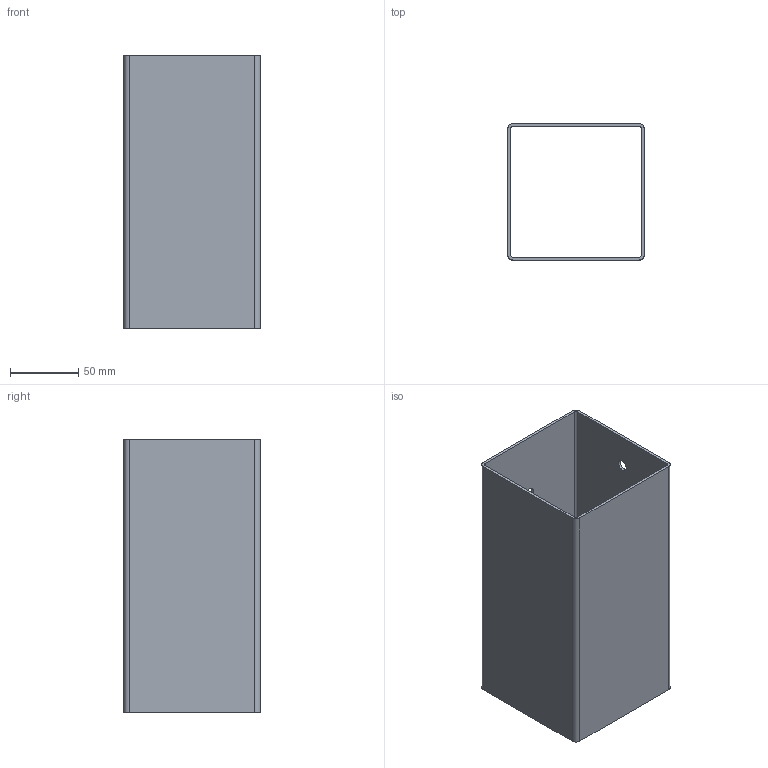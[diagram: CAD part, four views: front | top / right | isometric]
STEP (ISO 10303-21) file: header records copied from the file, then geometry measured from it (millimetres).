
FILE_DESCRIPTION(('STEP AP214'), '1');
FILE_NAME('Ïðîôèëü L = 200 ìì', '', ('UNSPECIFIED'), ('UNSPECIFIED'), 'C3D Converter', 'C3D Toolkit', '');
FILE_SCHEMA(('AUTOMOTIVE_DESIGN { 1 0 10303 214 3 1 1}'));
Length unit declared in the file: millimetre
Products named in the file (1): АКСЛ.298.301
Bounding box: 100 x 100 x 200 mm (x, y, z)
Volume: 154136.6 mm3; surface area: 155985.6 mm2
Topology: 1 solids, 1 shells, 24 faces, 66 edges, 44 vertices
Faces by surface type: cylinder 14, plane 10
Full cylindrical faces by diameter (mm): 8 x6
Entity records: 811 total; most frequent: DIRECTION 138, CARTESIAN_POINT 129, ORIENTED_EDGE 120, EDGE_CURVE 60, AXIS2_PLACEMENT_3D 53, EDGE_LOOP 44, VERTEX_POINT 44, FACE_BOUND 32
